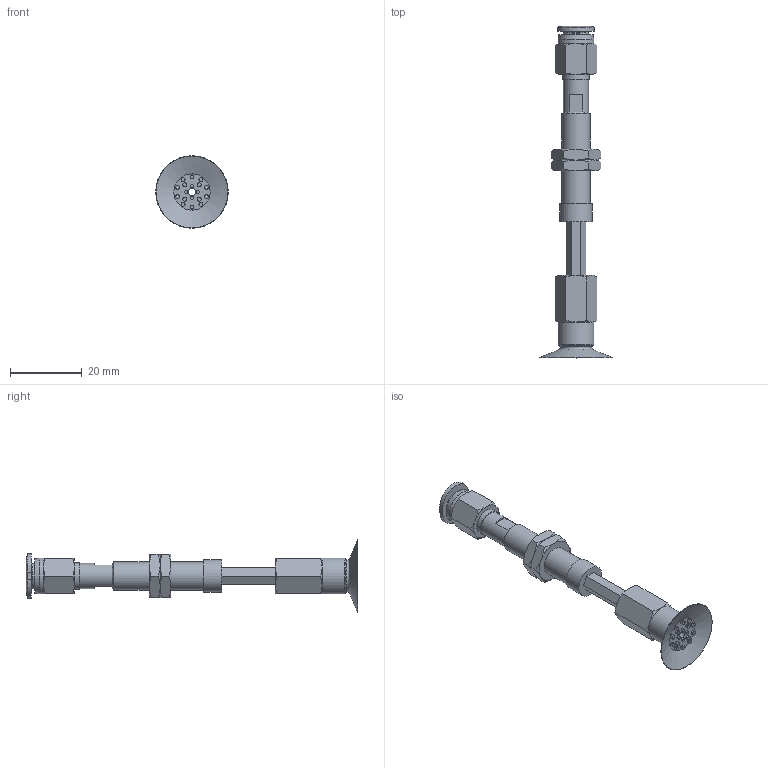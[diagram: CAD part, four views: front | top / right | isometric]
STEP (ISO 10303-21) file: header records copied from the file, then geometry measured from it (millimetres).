
FILE_DESCRIPTION(('STEP AP203'),'1');
FILE_NAME('-O.stp','2025-08-21T08:33:51',(' '),(' '),'Spatial InterOp 3D',' ',' ');
FILE_SCHEMA(('CONFIG_CONTROL_DESIGN'));
Length unit declared in the file: millimetre
Products named in the file (7): BNABPATH-20A-15-※-O; ADAPTER; NAPATH-10A-15--M; NAPATH-20A-15--F; Nut-10A-S; PC-C_06-M5; BPAG-20A-※
Assembly tree (7 placements, depth 2):
  BNABPATH-20A-15-※-O
    ADAPTER
    NAPATH-10A-15--M
    NAPATH-20A-15--F
    Nut-10A-S  x2
    PC-C_06-M5
    BPAG-20A-※
Bounding box: 20.19 x 92.48 x 20.19 mm (x, y, z)
Volume: 5066.2 mm3; surface area: 6409.3 mm2
Topology: 7 solids, 7 shells, 210 faces, 419 edges, 257 vertices
Faces by surface type: plane 88, cone 62, cylinder 41, torus 12, bspline 4, revolution 3
Full cylindrical faces by diameter (mm): 0.9 x4, 1.1 x14, 2 x3, 4 x4, 4.134 x1, 5 x1, 6 x2, 7 x2, 7.188 x2, 7.4 x1, 8 x1, 8.2 x1, 9 x1, 10 x2
Entity records: 5200 total; most frequent: CARTESIAN_POINT 1360, DIRECTION 735, ORIENTED_EDGE 594, AXIS2_PLACEMENT_3D 330, EDGE_CURVE 297, EDGE_LOOP 294, FACE_OUTER_BOUND 237, VERTEX_POINT 219
